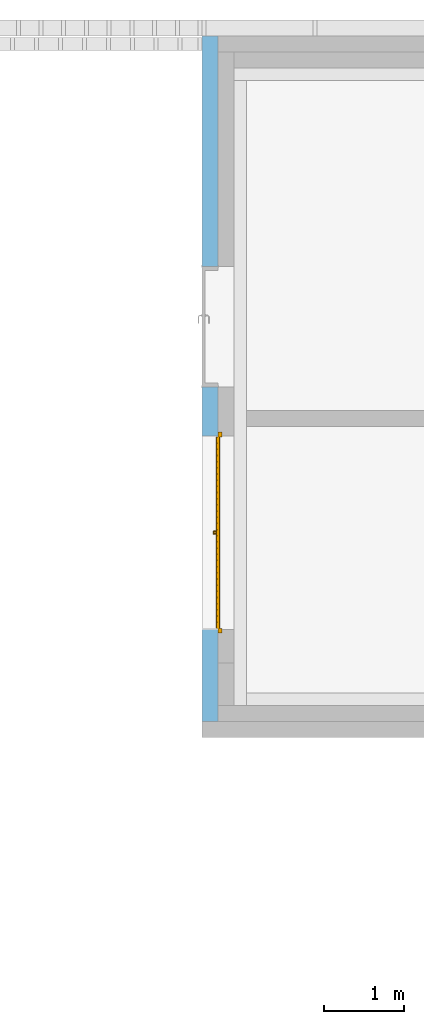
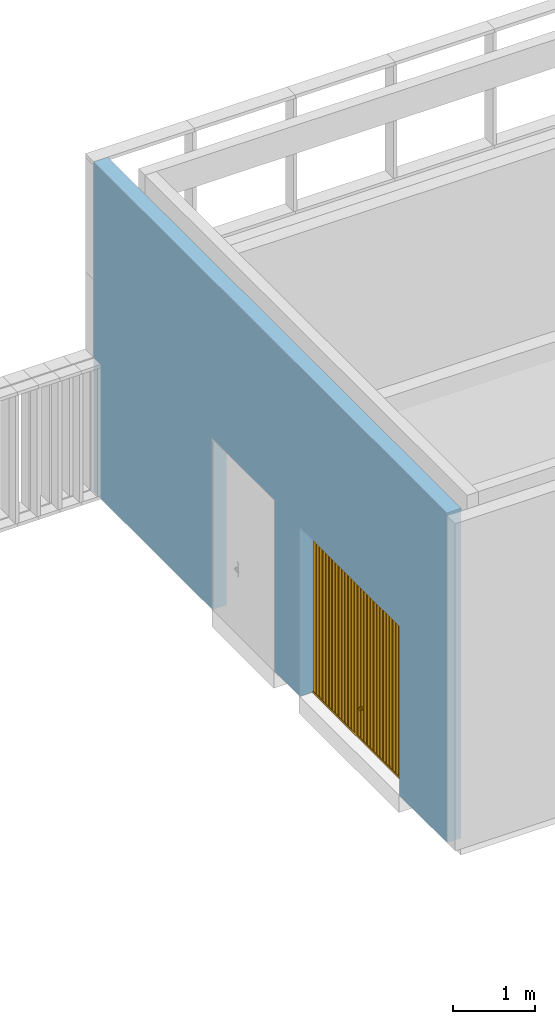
# One storey, part 204 of 240: 1 door, 2 openings, plus 1 element that does not belong to this part.
"""IFC2X3 building model written with IfcOpenShell, lengths in centimetres."""

import ifcopenshell
import ifcopenshell.guid

model = None  # the IFC model being written
_history = None  # IfcOwnerHistory: only IFC2X3 demands one
_inside = {}  # id of a spatial element -> (the spatial element, [elements in it])
_under = {}  # id of a project, library or spatial element -> (it, [spatial elements below it])
_declared = {}  # id of a project -> (the project, [libraries it declares])
_typed = {}  # id of a type object -> (the type object, [elements of that type])
_made_of = {}  # id of a material, layer set ... -> (it, [elements and type objects made of it])


def new_model(schema):
    """Start an empty IFC model of exactly this schema.

    Asked for "IFC4X3", IfcOpenShell would pick the latest addendum, in which some entities
    have other attributes; the version numbers below select the first issue.
    IFC2X3 requires an IfcOwnerHistory on every rooted entity: one is made here for all.
    """
    global model, _history
    if schema == "IFC4X3":
        model = ifcopenshell.file(schema_version=(4, 3, 0, 0))
    else:
        model = ifcopenshell.file(schema=schema)
    _inside.clear()
    _under.clear()
    _declared.clear()
    _typed.clear()
    _made_of.clear()
    _history = None
    if model.schema == "IFC2X3":
        org = make("IfcOrganization", Name="unknown")
        user = make(
            "IfcPersonAndOrganization",
            ThePerson=make("IfcPerson", FamilyName="unknown"),
            TheOrganization=org,
        )
        app = make(
            "IfcApplication",
            ApplicationDeveloper=org,
            Version="unknown",
            ApplicationFullName="unknown",
            ApplicationIdentifier="unknown",
        )
        _history = make(
            "IfcOwnerHistory",
            OwningUser=user,
            OwningApplication=app,
            ChangeAction="ADDED",
            CreationDate=0,
        )
    return model


def make(cls, **values):
    """One entity of the class cls with the attributes given. An attribute that is None is left unset."""
    return model.create_entity(
        cls, **{name: value for name, value in values.items() if value is not None}
    )


def entity(cls, *values):
    """Any entity or typed value of the class cls, its attributes in the order of the schema. None: left unset."""
    e = model.create_entity(cls)
    for i, value in enumerate(values):
        if value is not None:
            e[i] = value
    return e


def rooted(cls, **values):
    """An entity with a GlobalId (a new one), such as an element, a storey or a relation."""
    return make(cls, GlobalId=ifcopenshell.guid.new(), OwnerHistory=_history, **values)


def si_unit(unit_type, name, prefix=None):
    """IfcSIUnit, for example si_unit("LENGTHUNIT", "METRE", prefix="MILLI")."""
    return make("IfcSIUnit", UnitType=unit_type, Prefix=prefix, Name=name)


def converted_unit(unit_type, name, factor, base, dimensions=None, offset=None):
    """IfcConversionBasedUnit, such as the inch: factor (a typed value) times the base unit."""
    return make(
        "IfcConversionBasedUnit"
        if offset is None
        else "IfcConversionBasedUnitWithOffset",
        ConversionOffset=offset,
        Dimensions=None
        if dimensions is None
        else entity("IfcDimensionalExponents", *dimensions),
        UnitType=unit_type,
        Name=name,
        ConversionFactor=make(
            "IfcMeasureWithUnit", ValueComponent=factor, UnitComponent=base
        ),
    )


def derived_unit(unit_type, elements):
    """IfcDerivedUnit: a product of units, each with its exponent."""
    return make(
        "IfcDerivedUnit",
        Elements=[
            make("IfcDerivedUnitElement", Unit=unit, Exponent=power)
            for unit, power in elements
        ],
        UnitType=unit_type,
    )


def assignment(units):
    """IfcUnitAssignment: the units of a project."""
    return None if units is None else make("IfcUnitAssignment", Units=units)


def point(xyz):
    """IfcCartesianPoint."""
    return None if xyz is None else make("IfcCartesianPoint", Coordinates=xyz)


def direction(xyz):
    """IfcDirection."""
    return None if xyz is None else make("IfcDirection", DirectionRatios=xyz)


def frame(location, z_axis=None, x_axis=None):
    """IfcAxis2Placement3D, a coordinate frame: its origin and axes. An axis left out is left unset."""
    return make(
        "IfcAxis2Placement3D",
        Location=point(location),
        Axis=direction(z_axis),
        RefDirection=direction(x_axis),
    )


def frame_2d(location, x_axis=None):
    """IfcAxis2Placement2D, a coordinate frame in the plane: its origin and x axis."""
    return make(
        "IfcAxis2Placement2D", Location=point(location), RefDirection=direction(x_axis)
    )


def origin():
    """The frame at (0, 0, 0) with its axes left unset."""
    return frame((0.0, 0.0, 0.0))


def place(relative_to, where):
    """IfcLocalPlacement: puts the frame where relative to a parent placement (None: the world)."""
    return make(
        "IfcLocalPlacement", PlacementRelTo=relative_to, RelativePlacement=where
    )


def context(
    kind, dimensions, precision=None, world=None, true_north=None, identifier=None
):
    """IfcGeometricRepresentationContext, for example the 3D "Model" context."""
    return make(
        "IfcGeometricRepresentationContext",
        ContextIdentifier=identifier,
        ContextType=kind,
        CoordinateSpaceDimension=dimensions,
        Precision=precision,
        WorldCoordinateSystem=world,
        TrueNorth=true_north,
    )


def subcontext(parent, identifier, kind, view, scale=None):
    """IfcGeometricRepresentationSubContext, for example "Body" below "Model"."""
    return make(
        "IfcGeometricRepresentationSubContext",
        ContextIdentifier=identifier,
        ContextType=kind,
        ParentContext=parent,
        TargetScale=scale,
        TargetView=view,
    )


def project(units=None, contexts=None):
    """IfcProject with its units and contexts."""
    return rooted(
        "IfcProject",
        Name="project",
        RepresentationContexts=contexts,
        UnitsInContext=assignment(units),
    )


def spatial(cls, under=None, at=None, **own):
    """A site, building, storey or space (cls), placed at a placement, below another one or the project."""
    s = rooted(cls, ObjectPlacement=at, **own)
    if under is not None:
        _under.setdefault(under.id(), (under, []))[1].append(s)
    return s


def profile(cls, at=None, kind="AREA", **sizes):
    """A parametric profile (cls). Its sizes go by their IFC names, for example OverallWidth=200.0."""
    return make(cls, ProfileType=kind, Position=at, **sizes)


def rectangle(**sizes):
    """IfcRectangleProfileDef."""
    return profile("IfcRectangleProfileDef", **sizes)


def extrude(swept, where, along, depth):
    """IfcExtrudedAreaSolid: the profile swept, set in the frame where, extruded along a direction by depth."""
    return make(
        "IfcExtrudedAreaSolid",
        SweptArea=swept,
        Position=where,
        ExtrudedDirection=direction(along),
        Depth=depth,
    )


def faces_of(points, faces, orient=None, outer=None):
    """IfcFace entities. A face is a list of loops; a loop is a list of indices into points, from 0.

    orient and outer hold one flag for each loop. By default every Orientation is true, the
    first loop of a face is its IfcFaceOuterBound and the others are IfcFaceBound.
    """
    made = []
    for i, loops in enumerate(faces):
        bounds = []
        for j, loop in enumerate(loops):
            is_outer = j == 0 if outer is None else outer[i][j]
            bounds.append(
                make(
                    "IfcFaceOuterBound" if is_outer else "IfcFaceBound",
                    Bound=make("IfcPolyLoop", Polygon=[points[k] for k in loop]),
                    Orientation=True if orient is None else orient[i][j],
                )
            )
        made.append(make("IfcFace", Bounds=bounds))
    return made


def faceted_brep(points, faces, orient=None, outer=None, voids=None):
    """IfcFacetedBrep: a solid bounded by flat faces; with voids (closed shells), ...WithVoids."""
    shared = [point(p) for p in points]
    hull = make("IfcClosedShell", CfsFaces=faces_of(shared, faces, orient, outer))
    if voids is None:
        return make("IfcFacetedBrep", Outer=hull)
    return make(
        "IfcFacetedBrepWithVoids",
        Outer=hull,
        Voids=[
            make(cls, CfsFaces=faces_of(shared, fs, o, b)) for cls, fs, o, b in voids
        ],
    )


def shape(context_of_items, identifier, shape_type, items):
    """IfcShapeRepresentation: the items that make up one representation, for example the "Body"."""
    return make(
        "IfcShapeRepresentation",
        ContextOfItems=context_of_items,
        RepresentationIdentifier=identifier,
        RepresentationType=shape_type,
        Items=items,
    )


def source(mapping_origin, context_of_items, identifier, shape_type, items):
    """IfcRepresentationMap: a shape defined once, which mapped items show again and again."""
    return make(
        "IfcRepresentationMap",
        MappingOrigin=mapping_origin,
        MappedRepresentation=shape(context_of_items, identifier, shape_type, items),
    )


def transform(
    local_origin,
    x_axis=None,
    y_axis=None,
    z_axis=None,
    scale=None,
    scale2=None,
    scale3=None,
    uniform=True,
):
    """IfcCartesianTransformationOperator3D, or its non-uniform kind. x_axis, y_axis, z_axis: its Axis1, 2, 3."""
    if uniform:
        return make(
            "IfcCartesianTransformationOperator3D",
            Axis1=direction(x_axis),
            Axis2=direction(y_axis),
            LocalOrigin=point(local_origin),
            Scale=scale,
            Axis3=direction(z_axis),
        )
    return make(
        "IfcCartesianTransformationOperator3DnonUniform",
        Axis1=direction(x_axis),
        Axis2=direction(y_axis),
        LocalOrigin=point(local_origin),
        Scale=scale,
        Axis3=direction(z_axis),
        Scale2=scale2,
        Scale3=scale3,
    )


def mapped(mapping_source, mapping_target):
    """IfcMappedItem: shows the shape of a source again, moved by a transform."""
    return make(
        "IfcMappedItem", MappingSource=mapping_source, MappingTarget=mapping_target
    )


def material(Name=None, Category=None):
    """IfcMaterial."""
    return make("IfcMaterial", Name=Name, Category=Category)


def material_list(materials):
    """IfcMaterialList."""
    return make("IfcMaterialList", Materials=materials)


def layer(
    of_material, thickness, ventilated=None, Name=None, Category=None, Priority=None
):
    """IfcMaterialLayer: one layer of a wall or slab, of a material (None: an air gap)."""
    return make(
        "IfcMaterialLayer",
        Material=of_material,
        LayerThickness=thickness,
        IsVentilated=ventilated,
        Name=Name,
        Category=Category,
        Priority=Priority,
    )


def layer_set(layers, Name=None):
    """IfcMaterialLayerSet."""
    return make("IfcMaterialLayerSet", MaterialLayers=layers, LayerSetName=Name)


def layer_usage(for_layer_set, set_direction, sense, offset, extent=None):
    """IfcMaterialLayerSetUsage: how a layer set lies in its element."""
    return make(
        "IfcMaterialLayerSetUsage",
        ForLayerSet=for_layer_set,
        LayerSetDirection=set_direction,
        DirectionSense=sense,
        OffsetFromReferenceLine=offset,
        ReferenceExtent=extent,
    )


def made_of(thing, what):
    """Note that an element or type object is made of a material, layer set ...; save() writes the relation."""
    if what is not None:
        _made_of.setdefault(what.id(), (what, []))[1].append(thing)
    return thing


def type_object(cls, material=None, **own):
    """A type object (cls), such as IfcWallType, which elements share."""
    return made_of(rooted(cls, **own), material)


def type_shapes(of_type, sources):
    """Give a type object the sources (RepresentationMaps) that its elements show as mapped items."""
    of_type.RepresentationMaps = sources


def element(
    cls,
    number,
    at=None,
    inside=None,
    cuts=None,
    type_object=None,
    material=None,
    context=None,
    identifier="Body",
    shape_type=None,
    held_by="IfcProductDefinitionShape",
    body=None,
    shapes=None,
    **own,
):
    """One element of the class cls, such as IfcWall. Its Tag is "e" and its number.

    at: its placement. inside: the storey or other place that contains it. cuts: it is an
    opening in that element (IfcRelVoidsElement). A single representation is given by context,
    identifier, shape_type and body (its items); several are given by shapes. held_by: the class
    of the entity that holds the representations. save() writes the other relations.
    """
    e = rooted(cls, Tag="e%d" % number, ObjectPlacement=at, **own)
    if body is not None:
        shapes = [shape(context, identifier, shape_type, body)]
    if shapes is not None:
        e.Representation = make(held_by, Representations=shapes)
    if inside is not None:
        _inside.setdefault(inside.id(), (inside, []))[1].append(e)
    if cuts is not None:
        rooted(
            "IfcRelVoidsElement", RelatingBuildingElement=cuts, RelatedOpeningElement=e
        )
    if type_object is not None:
        _typed.setdefault(type_object.id(), (type_object, []))[1].append(e)
    return made_of(e, material)


def fill(opening, filler):
    """IfcRelFillsElement: the door or window that sits in an opening."""
    return rooted(
        "IfcRelFillsElement",
        RelatingOpeningElement=opening,
        RelatedBuildingElement=filler,
    )


def aggregate(whole, parts):
    """IfcRelAggregates: a whole, such as a stair, and the parts it consists of."""
    return rooted("IfcRelAggregates", RelatingObject=whole, RelatedObjects=parts)


def save(model, path):
    """Write the relations noted so far, then the file.

    IfcRelAggregates (storeys below a building ...), IfcRelContainedInSpatialStructure (elements
    in a storey), IfcRelDefinesByType, IfcRelAssociatesMaterial and IfcRelDeclares: one each for
    every whole, place, type object, material and project.
    """
    for whole, parts in _under.values():
        aggregate(whole, parts)
    for where, things in _inside.values():
        rooted(
            "IfcRelContainedInSpatialStructure",
            RelatedElements=things,
            RelatingStructure=where,
        )
    for kind, things in _typed.values():
        rooted("IfcRelDefinesByType", RelatedObjects=things, RelatingType=kind)
    for what, things in _made_of.values():
        rooted("IfcRelAssociatesMaterial", RelatedObjects=things, RelatingMaterial=what)
    for by, libraries in _declared.values():
        rooted("IfcRelDeclares", RelatingContext=by, RelatedDefinitions=libraries)
    model.write(path)


model = new_model("IFC2X3")

# Units and contexts
model_context = context("Model", 3, precision=0.001, world=origin(), true_north=direction((6.12303176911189e-17, 1.0)))
body_context = subcontext(model_context, "Body", "Model", "MODEL_VIEW")
ifc_project = project(units=[si_unit("LENGTHUNIT", "METRE", prefix="CENTI"), si_unit("AREAUNIT", "SQUARE_METRE"), si_unit("VOLUMEUNIT", "CUBIC_METRE"), converted_unit("PLANEANGLEUNIT", "DEGREE", entity("IfcRatioMeasure", 0.0174532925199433), si_unit("PLANEANGLEUNIT", "RADIAN"), dimensions=[0, 0, 0, 0, 0, 0, 0]), si_unit("MASSUNIT", "GRAM", prefix="KILO"), derived_unit("MASSDENSITYUNIT", [(si_unit("MASSUNIT", "GRAM", prefix="KILO"), 1), (si_unit("LENGTHUNIT", "METRE"), -3)]), si_unit("TIMEUNIT", "SECOND"), si_unit("FREQUENCYUNIT", "HERTZ"), si_unit("THERMODYNAMICTEMPERATUREUNIT", "DEGREE_CELSIUS"), derived_unit("THERMALTRANSMITTANCEUNIT", [(si_unit("MASSUNIT", "GRAM", prefix="KILO"), 1), (si_unit("THERMODYNAMICTEMPERATUREUNIT", "KELVIN"), -1), (si_unit("TIMEUNIT", "SECOND"), -3)]), derived_unit("VOLUMETRICFLOWRATEUNIT", [(si_unit("LENGTHUNIT", "METRE"), 3), (si_unit("TIMEUNIT", "SECOND"), -1)]), si_unit("ELECTRICCURRENTUNIT", "AMPERE"), si_unit("ELECTRICVOLTAGEUNIT", "VOLT"), si_unit("POWERUNIT", "WATT"), si_unit("FORCEUNIT", "NEWTON", prefix="KILO"), si_unit("ILLUMINANCEUNIT", "LUX"), si_unit("LUMINOUSFLUXUNIT", "LUMEN"), si_unit("LUMINOUSINTENSITYUNIT", "CANDELA"), derived_unit("USERDEFINED", [(si_unit("MASSUNIT", "GRAM", prefix="KILO"), -1), (si_unit("LENGTHUNIT", "METRE"), -2), (si_unit("TIMEUNIT", "SECOND"), 3), (si_unit("LUMINOUSFLUXUNIT", "LUMEN"), 1)]), derived_unit("LINEARVELOCITYUNIT", [(si_unit("LENGTHUNIT", "METRE"), 1), (si_unit("TIMEUNIT", "SECOND"), -1)]), si_unit("PRESSUREUNIT", "PASCAL"), derived_unit("USERDEFINED", [(si_unit("LENGTHUNIT", "METRE"), -2), (si_unit("MASSUNIT", "GRAM", prefix="KILO"), 1), (si_unit("TIMEUNIT", "SECOND"), -2)])], contexts=[model_context])

# Site, building, storey
site_placement = place(None, frame((-2781.94577612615, 7442.24238424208, 0.0)))
site = spatial("IfcSite", under=ifc_project, at=site_placement, Name="Default", CompositionType="ELEMENT")
building_placement = place(site_placement, origin())
building = spatial("IfcBuilding", under=site, at=building_placement, CompositionType="ELEMENT")
storey_placement = place(building_placement, origin())
storey = spatial("IfcBuildingStorey", under=building, at=storey_placement, Name="N00 - COO", CompositionType="ELEMENT", Elevation=0.0)

# Wall, openings, door
ifc_material_1 = material(Name="Aluminium bardage")
ifc_layer_1 = layer(ifc_material_1, 0.5)
ifc_material_2 = material(Name="01 - Lame d'air")
ifc_layer_2 = layer(ifc_material_2, 1.5)
ifc_material_3 = material(Name="00 - Isolant")
ifc_layer_3 = layer(ifc_material_3, 18.0)
ifc_layer_set = layer_set([ifc_layer_1, ifc_layer_2, ifc_layer_3], Name="Mur de base:04 - Parement - ITE 18cm + vide 2cm")
ifc_layer_usage = layer_usage(ifc_layer_set, "AXIS2", "NEGATIVE", 10.0)
wall_type = type_object("IfcWallType", Name="Mur de base:04 - Parement - ITE 18cm + vide 2cm", PredefinedType="STANDARD", material=ifc_layer_set)
wall_placement = place(building_placement, frame((-11220.6616968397, -830.048500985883, 0.0), z_axis=(0.0, 0.0, 1.0), x_axis=(0.0, 1.0, 0.0)))
wall = element("IfcWallStandardCase", 1, at=wall_placement, inside=storey, type_object=wall_type, material=ifc_layer_usage, Name="Mur de base:04 - Parement - ITE 18cm + vide 2cm", ObjectType="Mur de base:04 - Parement - ITE 18cm + vide 2cm", context=body_context, shape_type="SweptSolid", body=[
    extrude(rectangle(XDim=860.04850098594, YDim=19.9999999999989, at=frame_2d((430.02425049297, 3.99680288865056e-14), x_axis=(-1.0, 0.0))), origin(), (0.0, 0.0, 1.0), 490.0),
])
opening_1_placement = place(wall_placement, frame((830.048500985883, -11220.6616968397, 0.0), z_axis=(0.0, 0.0, 1.0), x_axis=(0.0, -1.0, 0.0)))
opening_1 = element("IfcOpeningElement", 2, at=opening_1_placement, cuts=wall, Name="Mur de base:04 - Parement - ITE 18cm + vide 2cm", ObjectType="Opening", context=body_context, shape_type="SweptSolid", body=[
    extrude(rectangle(XDim=251.500000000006, YDim=242.999999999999, at=frame_2d((0.0, -7.8159700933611e-14), x_axis=(1.0, 0.0))), frame((-11180.6616968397, -593.0, 125.750000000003), z_axis=(-1.0, 0.0, 0.0), x_axis=(0.0, 0.0, -1.0)), (0.0, 0.0, 1.0), 80.0000000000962),
])
opening_2_placement = place(wall_placement, frame((420.024250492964, -10.0, 0.0)))
element("IfcOpeningElement", 3, at=opening_2_placement, cuts=wall, Name="Int. Tierce:PP  chaufferie (1.80m x 2.50m):1", ObjectType="Opening", context=body_context, shape_type="SweptSolid", body=[
    extrude(rectangle(XDim=253.500000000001, YDim=151.0, at=frame_2d((126.750000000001, 75.4999999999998), x_axis=(1.0, 0.0))), frame((0.0, 0.0, 0.0), z_axis=(0.0, 1.0, 0.0), x_axis=(0.0, 0.0, 1.0)), (0.0, 0.0, 1.0), 20.0),
])
ifc_material_4 = material(Name="Plastique - Noir")
ifc_material_5 = material(Name="Aluminium")
ifc_material_list_1 = material_list([ifc_material_4, ifc_material_1, ifc_material_5])
ifc_material_list_2 = material_list([ifc_material_4, ifc_material_1, ifc_material_5])
door_style = type_object("IfcDoorStyle", Name="2.4m x 2.5m", ConstructionType="NOTDEFINED", OperationType="NOTDEFINED", ParameterTakesPrecedence=False, Sizeable=False, material=ifc_material_list_2)
shared_shape = source(origin(), body_context, "Body", "Brep", [
    faceted_brep([(119.323441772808, -44.2097911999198, 49.0045485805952), (119.238728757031, -44.2097911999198, 49.2652684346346), (119.169426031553, -44.2097911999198, 49.4785602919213), (119.0, -44.2097911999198, 50.0), (119.209791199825, -44.0, 50.0), (119.428486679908, -44.0, 49.3269245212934), (119.647182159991, -44.0, 48.6538490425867), (119.477457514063, -44.2097911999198, 48.5305368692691), (123.493909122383, -44.0, 49.0880833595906), (123.635000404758, -44.0, 49.5223176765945), (123.790208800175, -44.0, 50.0), (124.0, -44.2097911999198, 50.0), (123.761271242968, -44.2097911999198, 49.2652684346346), (123.522542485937, -44.2097911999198, 48.5305368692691), (123.352817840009, -44.0, 48.6538490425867), (122.897542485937, -44.2097911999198, 48.0764477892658), (122.272542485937, -44.2097911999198, 47.6223587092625), (122.207713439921, -44.0, 47.8218819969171), (122.780265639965, -44.0, 48.2378655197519), (120.792286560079, -44.0, 47.8218819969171), (121.5, -44.0, 47.8218819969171), (121.5, -44.2097911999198, 47.6223587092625), (120.727457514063, -44.2097911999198, 47.6223587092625), (120.102457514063, -44.2097911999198, 48.0764477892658), (120.219734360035, -44.0, 48.2378655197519), (123.676558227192, -44.2097911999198, 50.9954514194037), (123.761271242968, -44.2097911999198, 50.7347315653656), (123.830573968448, -44.2097911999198, 50.5214397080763), (123.571513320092, -44.0, 50.6730754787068), (123.352817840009, -44.0, 51.3461509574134), (123.522542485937, -44.2097911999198, 51.4694631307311), (119.506090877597, -44.0, 50.91191664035), (119.364999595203, -44.0, 50.4776823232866), (119.238728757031, -44.2097911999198, 50.7347315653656), (119.477457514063, -44.2097911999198, 51.4694631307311), (119.647182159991, -44.0, 51.3461509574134), (120.102457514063, -44.2097911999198, 51.9235522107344), (120.727457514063, -44.2097911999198, 52.3776412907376), (120.792286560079, -44.0, 52.1781180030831), (120.219734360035, -44.0, 51.7621344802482), (122.207713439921, -44.0, 52.1781180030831), (121.5, -44.0, 52.1781180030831), (121.5, -44.2097911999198, 52.3776412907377), (122.272542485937, -44.2097911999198, 52.3776412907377), (122.897542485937, -44.2097911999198, 51.9235522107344), (122.780265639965, -44.0, 51.7621344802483), (121.5, -44.0, 50.0), (121.5, -48.0, 50.0), (119.477457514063, -48.0, 48.5305368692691), (120.102457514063, -48.0, 48.0764477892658), (120.727457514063, -48.0, 47.6223587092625), (121.5, -48.0, 47.6223587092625), (119.305454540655, -48.0, 49.0599075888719), (119.152727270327, -48.0, 49.529953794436), (119.0, -48.0, 50.0), (122.272542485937, -48.0, 47.6223587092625), (122.897542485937, -48.0, 48.0764477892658), (123.522542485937, -48.0, 48.5305368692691), (123.761271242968, -48.0, 49.2652684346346), (124.0, -48.0, 50.0), (123.847272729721, -48.0, 50.470046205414), (119.238728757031, -48.0, 50.7347315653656), (119.477457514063, -48.0, 51.4694631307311), (120.102457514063, -48.0, 51.9235522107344), (120.727457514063, -48.0, 52.3776412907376), (123.694545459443, -48.0, 50.9400924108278), (123.522542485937, -48.0, 51.4694631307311), (122.897542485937, -48.0, 51.9235522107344), (122.272542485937, -48.0, 52.3776412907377), (121.5, -48.0, 52.3776412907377)], [[[0, 1, 2, 3, 4, 5, 6, 7]], [[8, 9, 10, 11, 12, 13, 14]], [[13, 15, 16, 17, 18, 14]], [[19, 20, 17, 16, 21, 22]], [[22, 23, 7, 6, 24, 19]], [[25, 26, 27, 11, 10, 28, 29, 30]], [[31, 32, 4, 3, 33, 34, 35]], [[34, 36, 37, 38, 39, 35]], [[40, 41, 38, 37, 42, 43]], [[43, 44, 30, 29, 45, 40]], [[46, 19, 24]], [[46, 24, 6]], [[46, 6, 5]], [[46, 5, 4]], [[46, 4, 32]], [[46, 20, 19]], [[46, 17, 20]], [[46, 18, 17]], [[46, 14, 18]], [[46, 8, 14]], [[46, 9, 8]], [[46, 10, 9]], [[46, 32, 31]], [[46, 31, 35]], [[46, 35, 39]], [[46, 39, 38]], [[46, 38, 41]], [[46, 28, 10]], [[46, 29, 28]], [[46, 45, 29]], [[46, 40, 45]], [[46, 41, 40]], [[47, 48, 49]], [[47, 49, 50]], [[47, 50, 51]], [[47, 52, 48]], [[47, 53, 52]], [[47, 54, 53]], [[47, 51, 55]], [[47, 55, 56]], [[47, 56, 57]], [[47, 57, 58]], [[47, 58, 59]], [[47, 59, 60]], [[47, 61, 54]], [[47, 62, 61]], [[47, 63, 62]], [[47, 64, 63]], [[47, 60, 65]], [[47, 65, 66]], [[47, 66, 67]], [[47, 67, 68]], [[47, 68, 69]], [[47, 69, 64]], [[13, 57, 56, 55, 16, 15]], [[57, 13, 12, 11, 59, 58]], [[52, 53, 54, 3, 2, 1, 0, 7, 48]], [[21, 16, 55, 51, 50, 22]], [[50, 49, 48, 7, 23, 22]], [[62, 63, 64, 37, 36, 34]], [[33, 3, 54, 61, 62, 34]], [[65, 60, 59, 11, 27, 26, 25, 30, 66]], [[42, 37, 64, 69, 68, 43]], [[68, 67, 66, 30, 44, 43]]]),
    faceted_brep([(1.49999999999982, -52.5000000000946, 250.0), (241.5, -52.5000000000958, 250.0), (241.5, -47.5000000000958, 250.0), (1.5, -47.5000000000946, 250.0), (241.5, -52.5000000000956, 0.0), (1.49999999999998, -52.5000000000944, 0.0), (1.49999999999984, -47.5000000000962, 0.0), (241.5, -47.5000000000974, 0.0), (234.758064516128, -49.0, 247.0), (234.758064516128, -49.0, 3.0), (232.758064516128, -49.0, 3.0), (232.758064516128, -49.0, 247.0), (232.758064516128, -48.0, 3.0), (232.758064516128, -48.0, 247.0), (227.016129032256, -48.0, 3.0), (227.016129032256, -48.0, 247.0), (227.016129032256, -49.0, 3.0), (227.016129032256, -49.0, 247.0), (225.016129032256, -49.0, 3.0), (225.016129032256, -49.0, 247.0), (225.016129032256, -48.0, 3.0), (225.016129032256, -48.0, 247.0), (219.274193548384, -48.0, 3.0), (219.274193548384, -48.0, 247.0), (219.274193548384, -49.0, 3.0), (219.274193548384, -49.0, 247.0), (217.274193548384, -49.0, 3.0), (217.274193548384, -49.0, 247.0), (217.274193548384, -48.0, 3.0), (217.274193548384, -48.0, 247.0), (211.532258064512, -48.0, 3.0), (211.532258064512, -48.0, 247.0), (211.532258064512, -49.0, 3.0), (211.532258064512, -49.0, 247.0), (209.532258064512, -49.0, 3.0), (209.532258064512, -49.0, 247.0), (209.532258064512, -48.0, 3.0), (209.532258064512, -48.0, 247.0), (203.790322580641, -48.0, 3.0), (203.790322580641, -48.0, 247.0), (203.790322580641, -49.0, 3.0), (203.790322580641, -49.0, 247.0), (201.790322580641, -49.0, 3.0), (201.790322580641, -49.0, 247.0), (201.790322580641, -48.0, 3.0), (201.790322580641, -48.0, 247.0), (196.048387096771, -48.0, 3.0), (196.048387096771, -48.0, 247.0), (196.048387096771, -49.0, 3.0), (196.048387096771, -49.0, 247.0), (194.048387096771, -49.0, 3.0), (194.048387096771, -49.0, 247.0), (194.048387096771, -48.0, 3.0), (194.048387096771, -48.0, 247.0), (188.3064516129, -48.0, 3.0), (188.3064516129, -48.0, 247.0), (188.3064516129, -49.0, 3.0), (188.3064516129, -49.0, 247.0), (186.3064516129, -49.0, 3.0), (186.3064516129, -49.0, 247.0), (186.3064516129, -48.0, 3.0), (186.3064516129, -48.0, 247.0), (180.564516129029, -48.0, 3.0), (180.564516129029, -48.0, 247.0), (180.564516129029, -49.0, 3.0), (180.564516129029, -49.0, 247.0), (178.564516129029, -49.0, 3.0), (178.564516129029, -49.0, 247.0), (178.564516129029, -48.0, 3.0), (178.564516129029, -48.0, 247.0), (172.822580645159, -48.0, 3.0), (172.822580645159, -48.0, 247.0), (172.822580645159, -49.0, 3.0), (172.822580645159, -49.0, 247.0), (170.822580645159, -49.0, 3.0), (170.822580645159, -49.0, 247.0), (170.822580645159, -48.0, 3.0), (170.822580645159, -48.0, 247.0), (165.080645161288, -48.0, 3.0), (165.080645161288, -48.0, 247.0), (165.080645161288, -49.0, 3.0), (165.080645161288, -49.0, 247.0), (163.080645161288, -49.0, 3.0), (163.080645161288, -49.0, 247.0), (163.080645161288, -48.0, 3.0), (163.080645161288, -48.0, 247.0), (157.338709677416, -48.0, 3.0), (157.338709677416, -48.0, 247.0), (157.338709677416, -49.0, 3.0), (157.338709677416, -49.0, 247.0), (155.338709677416, -49.0, 3.0), (155.338709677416, -49.0, 247.0), (155.338709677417, -48.0, 3.0), (155.338709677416, -48.0, 247.0), (149.596774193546, -48.0, 3.0), (149.596774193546, -48.0, 247.0), (149.596774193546, -49.0, 3.0), (149.596774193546, -49.0, 247.0), (147.596774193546, -49.0, 3.0), (147.596774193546, -49.0, 247.0), (147.596774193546, -48.0, 3.0), (147.596774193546, -48.0, 247.0), (141.854838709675, -48.0, 3.0), (141.854838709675, -48.0, 247.0), (141.854838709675, -49.0, 3.0), (141.854838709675, -49.0, 247.0), (139.854838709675, -49.0, 3.0), (139.854838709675, -49.0, 247.0), (139.854838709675, -48.0, 3.0), (139.854838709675, -48.0, 247.0), (134.112903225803, -48.0, 3.0), (134.112903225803, -48.0, 247.0), (134.112903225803, -49.0, 3.0), (134.112903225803, -49.0, 247.0), (132.112903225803, -49.0, 3.0), (132.112903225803, -49.0, 247.0), (132.112903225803, -48.0, 3.0), (132.112903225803, -48.0, 247.0), (126.370967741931, -48.0, 3.0), (126.370967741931, -48.0, 247.0), (126.370967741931, -49.0, 3.0), (126.370967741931, -49.0, 247.0), (124.370967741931, -49.0, 3.0), (124.370967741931, -49.0, 247.0), (124.370967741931, -48.0, 3.0), (124.370967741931, -48.0, 247.0), (118.62903225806, -48.0, 3.0), (118.62903225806, -48.0, 247.0), (118.62903225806, -49.0, 3.0), (118.62903225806, -49.0, 247.0), (116.62903225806, -49.0, 3.0), (116.62903225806, -49.0, 247.0), (116.62903225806, -48.0, 3.0), (116.62903225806, -48.0, 247.0), (110.887096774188, -48.0, 3.0), (110.887096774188, -48.0, 247.0), (110.887096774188, -49.0, 3.0), (110.887096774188, -49.0, 247.0), (108.887096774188, -49.0, 3.0), (108.887096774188, -49.0, 247.0), (108.887096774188, -48.0, 3.0), (108.887096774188, -48.0, 247.0), (103.145161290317, -48.0, 3.0), (103.145161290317, -48.0, 247.0), (103.145161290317, -49.0, 3.0), (103.145161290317, -49.0, 247.0), (101.145161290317, -49.0, 3.0), (101.145161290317, -49.0, 247.0), (101.145161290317, -48.0, 3.0), (101.145161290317, -48.0, 247.0), (95.4032258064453, -48.0, 3.0), (95.4032258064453, -48.0, 247.0), (95.4032258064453, -49.0, 3.0), (95.4032258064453, -49.0, 247.0), (93.4032258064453, -49.0, 3.0), (93.4032258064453, -49.0, 247.0), (93.4032258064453, -48.0, 3.0), (93.4032258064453, -48.0, 247.0), (87.6612903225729, -48.0, 3.0), (87.6612903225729, -48.0, 247.0), (87.6612903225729, -49.0, 3.0), (87.6612903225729, -49.0, 247.0), (85.6612903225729, -49.0, 3.0), (85.6612903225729, -49.0, 247.0), (85.6612903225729, -48.0, 3.0), (85.6612903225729, -48.0, 247.0), (79.9193548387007, -48.0, 3.0), (79.9193548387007, -48.0, 247.0), (79.9193548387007, -49.0, 3.0), (79.9193548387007, -49.0, 247.0), (77.9193548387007, -49.0, 3.0), (77.9193548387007, -49.0, 247.0), (77.9193548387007, -48.0, 3.0), (77.9193548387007, -48.0, 247.0), (72.1774193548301, -48.0, 3.0), (72.1774193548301, -48.0, 247.0), (72.1774193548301, -49.0, 3.0), (72.1774193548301, -49.0, 247.0), (70.1774193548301, -49.0, 3.0), (70.1774193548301, -49.0, 247.0), (70.1774193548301, -48.0, 3.0), (70.1774193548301, -48.0, 247.0), (64.4354838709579, -48.0, 3.0), (64.4354838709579, -48.0, 247.0), (64.4354838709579, -49.0, 3.0), (64.4354838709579, -49.0, 247.0), (62.4354838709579, -49.0, 3.0), (62.4354838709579, -49.0, 247.0), (62.4354838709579, -48.0, 3.0), (62.4354838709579, -48.0, 247.0), (56.6935483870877, -48.0, 3.0), (56.6935483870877, -48.0, 247.0), (56.6935483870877, -49.0, 3.0), (56.6935483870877, -49.0, 247.0), (54.6935483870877, -49.0, 3.0), (54.6935483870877, -49.0, 247.0), (54.6935483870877, -48.0, 3.0), (54.6935483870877, -48.0, 247.0), (48.9516129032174, -48.0, 3.0), (48.9516129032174, -48.0, 247.0), (48.9516129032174, -49.0, 3.0), (48.9516129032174, -49.0, 247.0), (46.9516129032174, -49.0, 3.0), (46.9516129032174, -49.0, 247.0), (46.9516129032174, -48.0, 3.0), (46.9516129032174, -48.0, 247.0), (41.2096774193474, -48.0, 3.0), (41.2096774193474, -48.0, 247.0), (41.2096774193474, -49.0, 3.0), (41.2096774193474, -49.0, 247.0), (39.2096774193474, -49.0, 3.0), (39.2096774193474, -49.0, 247.0), (39.2096774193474, -48.0, 3.0), (39.2096774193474, -48.0, 247.0), (33.4677419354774, -48.0, 3.0), (33.4677419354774, -48.0, 247.0), (33.4677419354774, -49.0, 3.0), (33.4677419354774, -49.0, 247.0), (31.4677419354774, -49.0, 3.0), (31.4677419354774, -49.0, 247.0), (31.4677419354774, -48.0, 3.0), (31.4677419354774, -48.0, 247.0), (25.7258064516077, -48.0, 3.0), (25.7258064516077, -48.0, 247.0), (25.7258064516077, -49.0, 3.0), (25.7258064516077, -49.0, 247.0), (23.7258064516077, -49.0, 3.0), (23.7258064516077, -49.0, 247.0), (23.7258064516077, -48.0, 3.0), (23.7258064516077, -48.0, 247.0), (17.9838709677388, -48.0, 3.0), (17.9838709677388, -48.0, 247.0), (17.9838709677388, -49.0, 3.0), (17.9838709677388, -49.0, 247.0), (15.9838709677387, -49.0, 3.0), (15.9838709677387, -49.0, 247.0), (15.9838709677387, -48.0, 3.0), (15.9838709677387, -48.0, 247.0), (10.2419354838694, -48.0, 3.0), (10.2419354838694, -48.0, 247.0), (10.2419354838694, -49.0, 3.0), (10.2419354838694, -49.0, 247.0), (8.24193548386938, -49.0, 3.0), (8.24193548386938, -49.0, 247.0), (8.24193548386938, -48.0, 3.0), (8.24193548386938, -48.0, 247.0), (1.5, -48.0, 3.0), (1.5, -48.0, 247.0), (1.5, -47.5000000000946, 247.0), (1.5, -47.5000000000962, 3.0), (1.49999999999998, -52.5000000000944, 3.0), (1.49999999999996, -52.0, 3.0), (1.49999999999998, -52.0, 247.0), (1.49999999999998, -52.5000000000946, 247.0), (241.5, -52.0, 3.0), (241.5, -52.0, 247.0), (241.5, -52.5000000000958, 247.0), (241.5, -52.5000000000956, 3.0), (241.5, -47.5000000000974, 3.0), (241.5, -48.0, 3.0), (241.5, -48.0, 247.0), (241.5, -47.5000000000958, 247.0), (234.758064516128, -48.0, 3.0), (234.758064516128, -48.0, 247.0)], [[[0, 1, 2, 3]], [[4, 5, 6, 7]], [[8, 9, 10, 11]], [[11, 10, 12, 13]], [[13, 12, 14, 15]], [[15, 14, 16, 17]], [[17, 16, 18, 19]], [[19, 18, 20, 21]], [[21, 20, 22, 23]], [[23, 22, 24, 25]], [[25, 24, 26, 27]], [[27, 26, 28, 29]], [[29, 28, 30, 31]], [[31, 30, 32, 33]], [[33, 32, 34, 35]], [[35, 34, 36, 37]], [[37, 36, 38, 39]], [[39, 38, 40, 41]], [[41, 40, 42, 43]], [[43, 42, 44, 45]], [[45, 44, 46, 47]], [[47, 46, 48, 49]], [[49, 48, 50, 51]], [[51, 50, 52, 53]], [[53, 52, 54, 55]], [[55, 54, 56, 57]], [[57, 56, 58, 59]], [[59, 58, 60, 61]], [[61, 60, 62, 63]], [[63, 62, 64, 65]], [[65, 64, 66, 67]], [[67, 66, 68, 69]], [[69, 68, 70, 71]], [[71, 70, 72, 73]], [[73, 72, 74, 75]], [[75, 74, 76, 77]], [[77, 76, 78, 79]], [[79, 78, 80, 81]], [[81, 80, 82, 83]], [[83, 82, 84, 85]], [[85, 84, 86, 87]], [[87, 86, 88, 89]], [[89, 88, 90, 91]], [[91, 90, 92, 93]], [[93, 92, 94, 95]], [[95, 94, 96, 97]], [[97, 96, 98, 99]], [[99, 98, 100, 101]], [[101, 100, 102, 103]], [[103, 102, 104, 105]], [[105, 104, 106, 107]], [[107, 106, 108, 109]], [[109, 108, 110, 111]], [[111, 110, 112, 113]], [[113, 112, 114, 115]], [[115, 114, 116, 117]], [[117, 116, 118, 119]], [[119, 118, 120, 121]], [[121, 120, 122, 123]], [[123, 122, 124, 125]], [[125, 124, 126, 127]], [[127, 126, 128, 129]], [[129, 128, 130, 131]], [[131, 130, 132, 133]], [[133, 132, 134, 135]], [[135, 134, 136, 137]], [[137, 136, 138, 139]], [[139, 138, 140, 141]], [[141, 140, 142, 143]], [[143, 142, 144, 145]], [[145, 144, 146, 147]], [[147, 146, 148, 149]], [[149, 148, 150, 151]], [[151, 150, 152, 153]], [[153, 152, 154, 155]], [[155, 154, 156, 157]], [[157, 156, 158, 159]], [[159, 158, 160, 161]], [[161, 160, 162, 163]], [[163, 162, 164, 165]], [[165, 164, 166, 167]], [[167, 166, 168, 169]], [[169, 168, 170, 171]], [[171, 170, 172, 173]], [[173, 172, 174, 175]], [[175, 174, 176, 177]], [[177, 176, 178, 179]], [[179, 178, 180, 181]], [[181, 180, 182, 183]], [[183, 182, 184, 185]], [[185, 184, 186, 187]], [[187, 186, 188, 189]], [[189, 188, 190, 191]], [[191, 190, 192, 193]], [[193, 192, 194, 195]], [[195, 194, 196, 197]], [[197, 196, 198, 199]], [[199, 198, 200, 201]], [[201, 200, 202, 203]], [[203, 202, 204, 205]], [[205, 204, 206, 207]], [[207, 206, 208, 209]], [[209, 208, 210, 211]], [[211, 210, 212, 213]], [[213, 212, 214, 215]], [[215, 214, 216, 217]], [[217, 216, 218, 219]], [[219, 218, 220, 221]], [[221, 220, 222, 223]], [[223, 222, 224, 225]], [[225, 224, 226, 227]], [[227, 226, 228, 229]], [[229, 228, 230, 231]], [[231, 230, 232, 233]], [[233, 232, 234, 235]], [[235, 234, 236, 237]], [[237, 236, 238, 239]], [[239, 238, 240, 241]], [[241, 240, 242, 243]], [[243, 242, 244, 245]], [[245, 244, 246, 247]], [[0, 3, 248, 247, 246, 249, 6, 5, 250, 251, 252, 253]], [[252, 251, 254, 255]], [[2, 1, 256, 255, 254, 257, 4, 7, 258, 259, 260, 261]], [[260, 259, 262, 263]], [[9, 8, 263, 262]], [[256, 253, 252, 255]], [[2, 261, 248, 3]], [[256, 1, 0, 253]], [[4, 257, 250, 5]], [[258, 7, 6, 249]], [[250, 257, 254, 251]], [[258, 249, 246, 244, 242, 240, 238, 236, 234, 232, 230, 228, 226, 224, 222, 220, 218, 216, 214, 212, 210, 208, 206, 204, 202, 200, 198, 196, 194, 192, 190, 188, 186, 184, 182, 180, 178, 176, 174, 172, 170, 168, 166, 164, 162, 160, 158, 156, 154, 152, 150, 148, 146, 144, 142, 140, 138, 136, 134, 132, 130, 128, 126, 124, 122, 120, 118, 116, 114, 112, 110, 108, 106, 104, 102, 100, 98, 96, 94, 92, 90, 88, 86, 84, 82, 80, 78, 76, 74, 72, 70, 68, 66, 64, 62, 60, 58, 56, 54, 52, 50, 48, 46, 44, 42, 40, 38, 36, 34, 32, 30, 28, 26, 24, 22, 20, 18, 16, 14, 12, 10, 9, 262, 259]], [[248, 261, 260, 263, 8, 11, 13, 15, 17, 19, 21, 23, 25, 27, 29, 31, 33, 35, 37, 39, 41, 43, 45, 47, 49, 51, 53, 55, 57, 59, 61, 63, 65, 67, 69, 71, 73, 75, 77, 79, 81, 83, 85, 87, 89, 91, 93, 95, 97, 99, 101, 103, 105, 107, 109, 111, 113, 115, 117, 119, 121, 123, 125, 127, 129, 131, 133, 135, 137, 139, 141, 143, 145, 147, 149, 151, 153, 155, 157, 159, 161, 163, 165, 167, 169, 171, 173, 175, 177, 179, 181, 183, 185, 187, 189, 191, 193, 195, 197, 199, 201, 203, 205, 207, 209, 211, 213, 215, 217, 219, 221, 223, 225, 227, 229, 231, 233, 235, 237, 239, 241, 243, 245, 247]]]),
    faceted_brep([(1.49999999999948, -55.0, 0.0), (-4.50000000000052, -55.0, 0.0), (-4.50000000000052, -50.0, 0.0), (1.49999999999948, -50.0, 0.0), (1.4999999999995, -55.0, 250.0), (241.5, -55.0, 250.0), (241.5, -55.0, 0.0), (247.5, -55.0, 0.0), (247.5, -55.0, 256.0), (-4.50000000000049, -55.0, 256.0), (-4.50000000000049, -50.0, 256.0), (247.5, -50.0, 256.0), (247.5, -50.0, 0.0), (241.5, -50.0, 0.0), (241.5, -50.0, 250.0), (1.49999999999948, -50.0, 250.0)], [[[0, 1, 2, 3]], [[1, 0, 4, 5, 6, 7, 8, 9]], [[2, 1, 9, 10]], [[3, 2, 10, 11, 12, 13, 14, 15]], [[0, 3, 15, 4]], [[5, 14, 13, 6]], [[6, 13, 12, 7]], [[11, 8, 7, 12]], [[10, 9, 8, 11]], [[4, 15, 14, 5]]]),
])
type_shapes(door_style, [shared_shape])
door_placement = place(opening_1_placement, frame((-11260.6616968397, -714.499999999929, 0.0), z_axis=(0.0, 0.0, 1.0), x_axis=(0.0, 1.0, 0.0)))
door = element("IfcDoor", 4, at=door_placement, inside=storey, type_object=door_style, material=ifc_material_list_1, Name="Garage basculante:2.4m x 2.5m", ObjectType="Garage basculante:2.4m x 2.5m", OverallHeight=242.999999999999, OverallWidth=251.500000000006, context=body_context, shape_type="MappedRepresentation", body=[
    mapped(shared_shape, transform((0.0, 0.0, 0.0), scale=1.0)),
])
fill(opening_1, door)

save(model, "model.ifc")
